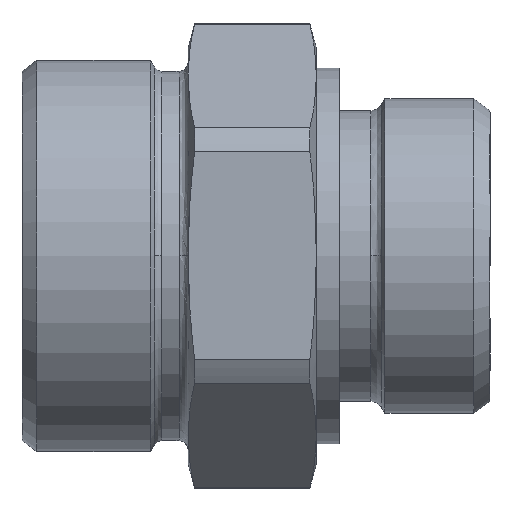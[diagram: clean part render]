
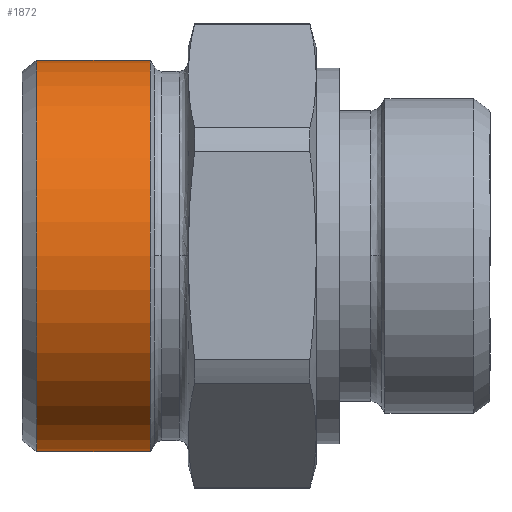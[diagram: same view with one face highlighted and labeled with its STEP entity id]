
A CAD part, top view. The second image highlights one B-rep face of the part: STEP entity #1872.
In plain terms, the highlighted cylindrical face has radius 25.91 mm (diameter 51.82 mm), a partial arc.
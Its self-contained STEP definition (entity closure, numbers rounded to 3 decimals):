
#908=CARTESIAN_POINT('',(0.,-25.91,28.563));
#909=VERTEX_POINT('',#908);
#910=CARTESIAN_POINT('',(0.,-25.91,13.493));
#911=VERTEX_POINT('',#910);
#912=CARTESIAN_POINT('',(0.,-25.91,28.563));
#913=DIRECTION('',(0.0,0.0,-1.0));
#914=VECTOR('',#913,15.07);
#915=LINE('',#912,#914);
#916=EDGE_CURVE('',#909,#911,#915,.T.);
#918=CARTESIAN_POINT('',(0.,25.91,28.563));
#919=VERTEX_POINT('',#918);
#927=CARTESIAN_POINT('',(0.,25.91,13.493));
#928=VERTEX_POINT('',#927);
#929=CARTESIAN_POINT('',(0.,25.91,13.493));
#930=DIRECTION('',(0.0,0.0,1.0));
#931=VECTOR('',#930,15.07);
#932=LINE('',#929,#931);
#933=EDGE_CURVE('',#928,#919,#932,.T.);
#1748=CARTESIAN_POINT('',(0.,0.,13.493));
#1749=DIRECTION('',(0.0,0.0,-1.0));
#1750=DIRECTION('',(0.0,-1.0,0.0));
#1751=AXIS2_PLACEMENT_3D('',#1748,#1749,#1750);
#1752=CIRCLE('',#1751,25.91);
#1753=EDGE_CURVE('',#928,#911,#1752,.T.);
#1849=CARTESIAN_POINT('',(0.,0.,28.563));
#1850=DIRECTION('',(0.0,0.0,-1.0));
#1851=DIRECTION('',(0.0,-1.0,0.0));
#1852=AXIS2_PLACEMENT_3D('',#1849,#1850,#1851);
#1853=CIRCLE('',#1852,25.91);
#1854=EDGE_CURVE('',#919,#909,#1853,.T.);
#1861=CARTESIAN_POINT('',(0.,0.,21.028));
#1862=DIRECTION('',(0.,0.,-1.0));
#1863=DIRECTION('',(0.0,-1.0,0.0));
#1864=AXIS2_PLACEMENT_3D('',#1861,#1862,#1863);
#1865=CYLINDRICAL_SURFACE('',#1864,25.91);
#1866=ORIENTED_EDGE('',*,*,#916,.T.);
#1867=ORIENTED_EDGE('',*,*,#1753,.F.);
#1868=ORIENTED_EDGE('',*,*,#933,.T.);
#1869=ORIENTED_EDGE('',*,*,#1854,.T.);
#1870=EDGE_LOOP('',(#1866,#1867,#1868,#1869));
#1871=FACE_OUTER_BOUND('',#1870,.T.);
#1872=ADVANCED_FACE('',(#1871),#1865,.T.);
